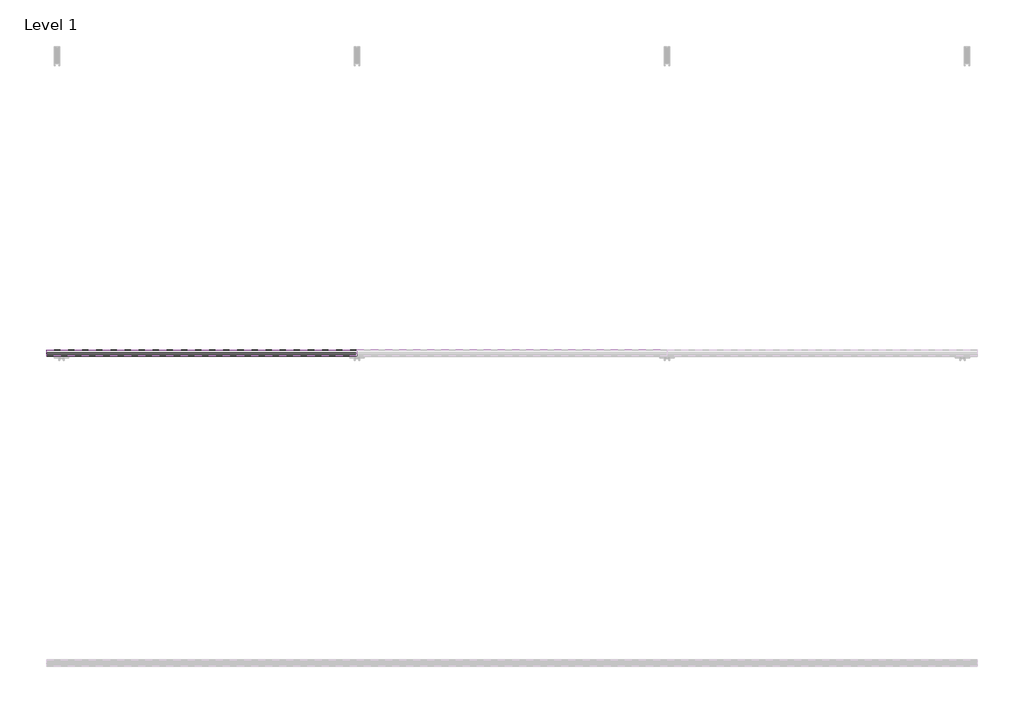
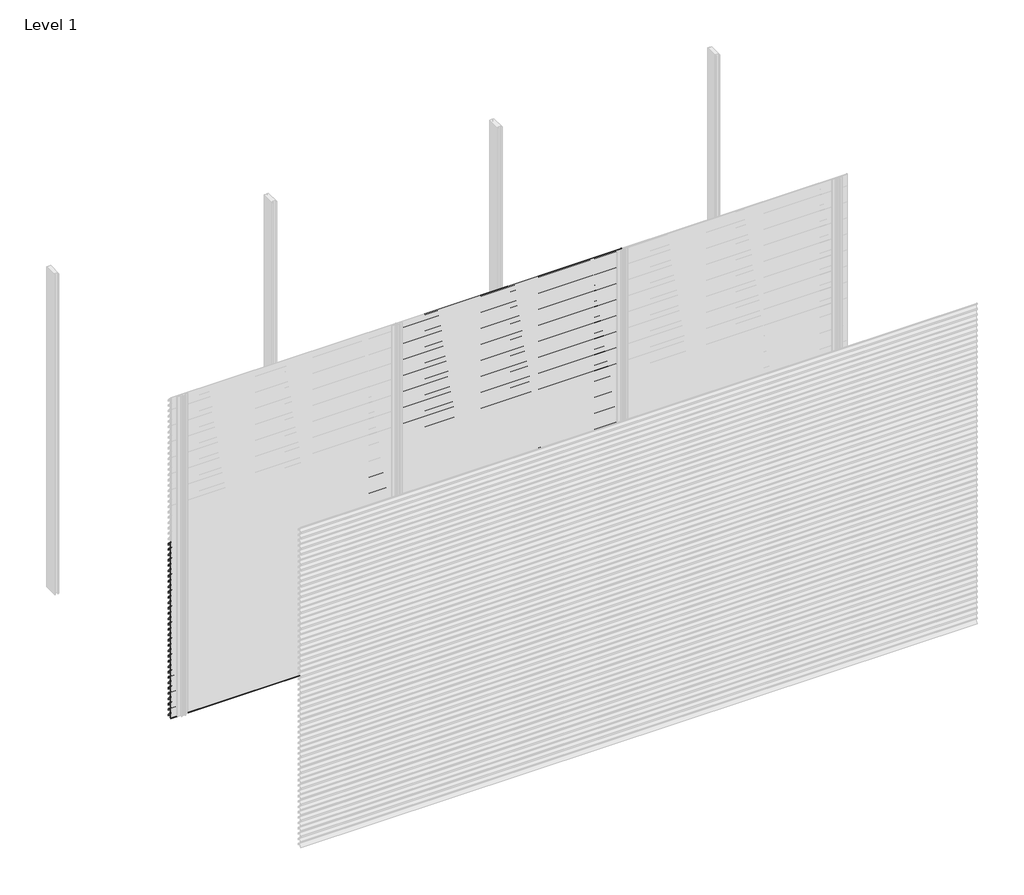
# One storey, part 4 of 38: 66 proxies.
"""IFC4 building model written with IfcOpenShell, lengths in millimetres."""

from ifc_helpers import new_model, si_unit, frame, origin, place, context, project, spatial, polyline, outline, extrude, element, save

model = new_model("IFC4")

# Units and contexts
model_context = context("Model", 3, world=origin())
ifc_project = project(units=[si_unit("LENGTHUNIT", "METRE", prefix="MILLI")], contexts=[model_context])

# Site, building, storey
site = spatial("IfcSite", under=ifc_project)
building = spatial("IfcBuilding", under=site)
storey = spatial("IfcBuildingStorey", under=building, Name="Level 1", Elevation=0.0)

# Proxies
placement = place(None, origin())
element("IfcBuildingElementProxy", 1, Name="Wall Sweeps", at=placement, inside=storey, context=model_context, shape_type="SweptSolid", body=[
    extrude(outline(polyline([(-53996.75, 1650.0), (-53996.75, 1639.19656), (-53974.6057113, 1626.4115489), (-53957.0, 1609.0472005), (-53957.0, 1594.0472005), (-53958.3, 1595.0268207), (-53958.3, 1608.5034593), (-53969.4914725, 1619.541504), (-53994.2797376, 1590.0), (-53995.9767671, 1590.0), (-53970.4200307, 1620.4573323), (-53975.3999793, 1625.3690091), (-53998.0, 1638.4171371), (-53998.0, 1650.0), (-53996.75, 1650.0)])), frame((0.0, 0.0, 0.0), z_axis=(1.0, 0.0, 0.0), x_axis=(0.0, 1.0, 0.0)), (0.0, 0.0, 1.0), 2000.0),
])
element("IfcBuildingElementProxy", 2, Name="Wall Sweeps", at=placement, inside=storey, context=model_context, shape_type="SweptSolid", body=[
    extrude(outline(polyline([(-53996.75, 1600.0), (-53996.75, 1589.19656), (-53974.6057113, 1576.4115489), (-53957.0, 1559.0472005), (-53957.0, 1544.0472005), (-53958.3, 1545.0268207), (-53958.3, 1558.5034593), (-53969.4914725, 1569.541504), (-53994.2797376, 1540.0), (-53995.9767671, 1540.0), (-53970.4200307, 1570.4573323), (-53975.3999793, 1575.3690091), (-53998.0, 1588.4171371), (-53998.0, 1600.0), (-53996.75, 1600.0)])), frame((0.0, 0.0, 0.0), z_axis=(1.0, 0.0, 0.0), x_axis=(0.0, 1.0, 0.0)), (0.0, 0.0, 1.0), 2000.0),
])
element("IfcBuildingElementProxy", 3, Name="Wall Sweeps", at=placement, inside=storey, context=model_context, shape_type="SweptSolid", body=[
    extrude(outline(polyline([(-53996.75, 1550.0), (-53996.75, 1539.19656), (-53974.6057113, 1526.4115489), (-53957.0, 1509.0472005), (-53957.0, 1494.0472005), (-53958.3, 1495.0268207), (-53958.3, 1508.5034593), (-53969.4914725, 1519.541504), (-53994.2797376, 1490.0), (-53995.9767671, 1490.0), (-53970.4200307, 1520.4573323), (-53975.3999793, 1525.3690091), (-53998.0, 1538.4171371), (-53998.0, 1550.0), (-53996.75, 1550.0)])), frame((0.0, 0.0, 0.0), z_axis=(1.0, 0.0, 0.0), x_axis=(0.0, 1.0, 0.0)), (0.0, 0.0, 1.0), 2000.0),
])
element("IfcBuildingElementProxy", 4, Name="Wall Sweeps", at=placement, inside=storey, context=model_context, shape_type="SweptSolid", body=[
    extrude(outline(polyline([(-53996.75, 1500.0), (-53996.75, 1489.19656), (-53974.6057113, 1476.4115489), (-53957.0, 1459.0472005), (-53957.0, 1444.0472005), (-53958.3, 1445.0268207), (-53958.3, 1458.5034593), (-53969.4914725, 1469.541504), (-53994.2797376, 1440.0), (-53995.9767671, 1440.0), (-53970.4200307, 1470.4573323), (-53975.3999793, 1475.3690091), (-53998.0, 1488.4171371), (-53998.0, 1500.0), (-53996.75, 1500.0)])), frame((0.0, 0.0, 0.0), z_axis=(1.0, 0.0, 0.0), x_axis=(0.0, 1.0, 0.0)), (0.0, 0.0, 1.0), 2000.0),
])
element("IfcBuildingElementProxy", 5, Name="Wall Sweeps", at=placement, inside=storey, context=model_context, shape_type="SweptSolid", body=[
    extrude(outline(polyline([(-53996.75, 1450.0), (-53996.75, 1439.19656), (-53974.6057113, 1426.4115489), (-53957.0, 1409.0472005), (-53957.0, 1394.0472005), (-53958.3, 1395.0268207), (-53958.3, 1408.5034593), (-53969.4914725, 1419.541504), (-53994.2797376, 1390.0), (-53995.9767671, 1390.0), (-53970.4200307, 1420.4573323), (-53975.3999793, 1425.3690091), (-53998.0, 1438.4171371), (-53998.0, 1450.0), (-53996.75, 1450.0)])), frame((0.0, 0.0, 0.0), z_axis=(1.0, 0.0, 0.0), x_axis=(0.0, 1.0, 0.0)), (0.0, 0.0, 1.0), 2000.0),
])
element("IfcBuildingElementProxy", 6, Name="Wall Sweeps", at=placement, inside=storey, context=model_context, shape_type="SweptSolid", body=[
    extrude(outline(polyline([(-53996.75, 1400.0), (-53996.75, 1389.19656), (-53974.6057113, 1376.4115489), (-53957.0, 1359.0472005), (-53957.0, 1344.0472005), (-53958.3, 1345.0268207), (-53958.3, 1358.5034593), (-53969.4914725, 1369.541504), (-53994.2797376, 1340.0), (-53995.9767671, 1340.0), (-53970.4200307, 1370.4573323), (-53975.3999793, 1375.3690091), (-53998.0, 1388.4171371), (-53998.0, 1400.0), (-53996.75, 1400.0)])), frame((0.0, 0.0, 0.0), z_axis=(1.0, 0.0, 0.0), x_axis=(0.0, 1.0, 0.0)), (0.0, 0.0, 1.0), 2000.0),
])
element("IfcBuildingElementProxy", 7, Name="Wall Sweeps", at=placement, inside=storey, context=model_context, shape_type="SweptSolid", body=[
    extrude(outline(polyline([(-53996.75, 1350.0), (-53996.75, 1339.19656), (-53974.6057113, 1326.4115489), (-53957.0, 1309.0472005), (-53957.0, 1294.0472005), (-53958.3, 1295.0268207), (-53958.3, 1308.5034593), (-53969.4914725, 1319.541504), (-53994.2797376, 1290.0), (-53995.9767671, 1290.0), (-53970.4200307, 1320.4573323), (-53975.3999793, 1325.3690091), (-53998.0, 1338.4171371), (-53998.0, 1350.0), (-53996.75, 1350.0)])), frame((0.0, 0.0, 0.0), z_axis=(1.0, 0.0, 0.0), x_axis=(0.0, 1.0, 0.0)), (0.0, 0.0, 1.0), 2000.0),
])
element("IfcBuildingElementProxy", 8, Name="Wall Sweeps", at=placement, inside=storey, context=model_context, shape_type="SweptSolid", body=[
    extrude(outline(polyline([(-53996.75, 1300.0), (-53996.75, 1289.19656), (-53974.6057113, 1276.4115489), (-53957.0, 1259.0472005), (-53957.0, 1244.0472005), (-53958.3, 1245.0268207), (-53958.3, 1258.5034593), (-53969.4914725, 1269.541504), (-53994.2797376, 1240.0), (-53995.9767671, 1240.0), (-53970.4200307, 1270.4573323), (-53975.3999793, 1275.3690091), (-53998.0, 1288.4171371), (-53998.0, 1300.0), (-53996.75, 1300.0)])), frame((0.0, 0.0, 0.0), z_axis=(1.0, 0.0, 0.0), x_axis=(0.0, 1.0, 0.0)), (0.0, 0.0, 1.0), 2000.0),
])
element("IfcBuildingElementProxy", 9, Name="Wall Sweeps", at=placement, inside=storey, context=model_context, shape_type="SweptSolid", body=[
    extrude(outline(polyline([(-53996.75, 1250.0), (-53996.75, 1239.19656), (-53974.6057113, 1226.4115489), (-53957.0, 1209.0472005), (-53957.0, 1194.0472005), (-53958.3, 1195.0268207), (-53958.3, 1208.5034593), (-53969.4914725, 1219.541504), (-53994.2797376, 1190.0), (-53995.9767671, 1190.0), (-53970.4200307, 1220.4573323), (-53975.3999793, 1225.3690091), (-53998.0, 1238.4171371), (-53998.0, 1250.0), (-53996.75, 1250.0)])), frame((0.0, 0.0, 0.0), z_axis=(1.0, 0.0, 0.0), x_axis=(0.0, 1.0, 0.0)), (0.0, 0.0, 1.0), 2000.0),
])
element("IfcBuildingElementProxy", 10, Name="Wall Sweeps", at=placement, inside=storey, context=model_context, shape_type="SweptSolid", body=[
    extrude(outline(polyline([(-53996.75, 1200.0), (-53996.75, 1189.19656), (-53974.6057113, 1176.4115489), (-53957.0, 1159.0472005), (-53957.0, 1144.0472005), (-53958.3, 1145.0268207), (-53958.3, 1158.5034593), (-53969.4914725, 1169.541504), (-53994.2797376, 1140.0), (-53995.9767671, 1140.0), (-53970.4200307, 1170.4573323), (-53975.3999793, 1175.3690091), (-53998.0, 1188.4171371), (-53998.0, 1200.0), (-53996.75, 1200.0)])), frame((0.0, 0.0, 0.0), z_axis=(1.0, 0.0, 0.0), x_axis=(0.0, 1.0, 0.0)), (0.0, 0.0, 1.0), 2000.0),
])
element("IfcBuildingElementProxy", 11, Name="Wall Sweeps", at=placement, inside=storey, context=model_context, shape_type="SweptSolid", body=[
    extrude(outline(polyline([(-53996.75, 1150.0), (-53996.75, 1139.19656), (-53974.6057113, 1126.4115489), (-53957.0, 1109.0472005), (-53957.0, 1094.0472005), (-53958.3, 1095.0268207), (-53958.3, 1108.5034593), (-53969.4914725, 1119.541504), (-53994.2797376, 1090.0), (-53995.9767671, 1090.0), (-53970.4200307, 1120.4573323), (-53975.3999793, 1125.3690091), (-53998.0, 1138.4171371), (-53998.0, 1150.0), (-53996.75, 1150.0)])), frame((0.0, 0.0, 0.0), z_axis=(1.0, 0.0, 0.0), x_axis=(0.0, 1.0, 0.0)), (0.0, 0.0, 1.0), 2000.0),
])
element("IfcBuildingElementProxy", 12, Name="Wall Sweeps", at=placement, inside=storey, context=model_context, shape_type="SweptSolid", body=[
    extrude(outline(polyline([(-53996.75, 1100.0), (-53996.75, 1089.19656), (-53974.6057113, 1076.4115489), (-53957.0, 1059.0472005), (-53957.0, 1044.0472005), (-53958.3, 1045.0268207), (-53958.3, 1058.5034593), (-53969.4914725, 1069.541504), (-53994.2797376, 1040.0), (-53995.9767671, 1040.0), (-53970.4200307, 1070.4573323), (-53975.3999793, 1075.3690091), (-53998.0, 1088.4171371), (-53998.0, 1100.0), (-53996.75, 1100.0)])), frame((0.0, 0.0, 0.0), z_axis=(1.0, 0.0, 0.0), x_axis=(0.0, 1.0, 0.0)), (0.0, 0.0, 1.0), 2000.0),
])
element("IfcBuildingElementProxy", 13, Name="Wall Sweeps", at=placement, inside=storey, context=model_context, shape_type="SweptSolid", body=[
    extrude(outline(polyline([(-53996.75, 1050.0), (-53996.75, 1039.19656), (-53974.6057113, 1026.4115489), (-53957.0, 1009.0472005), (-53957.0, 994.0472005), (-53958.3, 995.0268207), (-53958.3, 1008.5034593), (-53969.4914725, 1019.541504), (-53994.2797376, 990.0), (-53995.9767671, 990.0), (-53970.4200307, 1020.4573323), (-53975.3999793, 1025.3690091), (-53998.0, 1038.4171371), (-53998.0, 1050.0), (-53996.75, 1050.0)])), frame((0.0, 0.0, 0.0), z_axis=(1.0, 0.0, 0.0), x_axis=(0.0, 1.0, 0.0)), (0.0, 0.0, 1.0), 2000.0),
])
element("IfcBuildingElementProxy", 14, Name="Wall Sweeps", at=placement, inside=storey, context=model_context, shape_type="SweptSolid", body=[
    extrude(outline(polyline([(-53996.75, 1000.0), (-53996.75, 989.19656), (-53974.6057113, 976.4115489), (-53957.0, 959.0472005), (-53957.0, 944.0472005), (-53958.3, 945.0268207), (-53958.3, 958.5034593), (-53969.4914725, 969.541504), (-53994.2797376, 940.0), (-53995.9767671, 940.0), (-53970.4200307, 970.4573323), (-53975.3999793, 975.3690091), (-53998.0, 988.4171371), (-53998.0, 1000.0), (-53996.75, 1000.0)])), frame((0.0, 0.0, 0.0), z_axis=(1.0, 0.0, 0.0), x_axis=(0.0, 1.0, 0.0)), (0.0, 0.0, 1.0), 2000.0),
])
element("IfcBuildingElementProxy", 15, Name="Wall Sweeps", at=placement, inside=storey, context=model_context, shape_type="SweptSolid", body=[
    extrude(outline(polyline([(-53996.75, 950.0), (-53996.75, 939.19656), (-53974.6057113, 926.4115489), (-53957.0, 909.0472005), (-53957.0, 894.0472005), (-53958.3, 895.0268207), (-53958.3, 908.5034593), (-53969.4914725, 919.541504), (-53994.2797376, 890.0), (-53995.9767671, 890.0), (-53970.4200307, 920.4573323), (-53975.3999793, 925.3690091), (-53998.0, 938.4171371), (-53998.0, 950.0), (-53996.75, 950.0)])), frame((0.0, 0.0, 0.0), z_axis=(1.0, 0.0, 0.0), x_axis=(0.0, 1.0, 0.0)), (0.0, 0.0, 1.0), 2000.0),
])
element("IfcBuildingElementProxy", 16, Name="Wall Sweeps", at=placement, inside=storey, context=model_context, shape_type="SweptSolid", body=[
    extrude(outline(polyline([(-53996.75, 900.0), (-53996.75, 889.19656), (-53974.6057113, 876.4115489), (-53957.0, 859.0472005), (-53957.0, 844.0472005), (-53958.3, 845.0268207), (-53958.3, 858.5034593), (-53969.4914725, 869.541504), (-53994.2797376, 840.0), (-53995.9767671, 840.0), (-53970.4200307, 870.4573323), (-53975.3999793, 875.3690091), (-53998.0, 888.4171371), (-53998.0, 900.0), (-53996.75, 900.0)])), frame((0.0, 0.0, 0.0), z_axis=(1.0, 0.0, 0.0), x_axis=(0.0, 1.0, 0.0)), (0.0, 0.0, 1.0), 2000.0),
])
element("IfcBuildingElementProxy", 17, Name="Wall Sweeps", at=placement, inside=storey, context=model_context, shape_type="SweptSolid", body=[
    extrude(outline(polyline([(-53996.75, 850.0), (-53996.75, 839.19656), (-53974.6057113, 826.4115489), (-53957.0, 809.0472005), (-53957.0, 794.0472005), (-53958.3, 795.0268207), (-53958.3, 808.5034593), (-53969.4914725, 819.541504), (-53994.2797376, 790.0), (-53995.9767671, 790.0), (-53970.4200307, 820.4573323), (-53975.3999793, 825.3690091), (-53998.0, 838.4171371), (-53998.0, 850.0), (-53996.75, 850.0)])), frame((0.0, 0.0, 0.0), z_axis=(1.0, 0.0, 0.0), x_axis=(0.0, 1.0, 0.0)), (0.0, 0.0, 1.0), 2000.0),
])
element("IfcBuildingElementProxy", 18, Name="Wall Sweeps", at=placement, inside=storey, context=model_context, shape_type="SweptSolid", body=[
    extrude(outline(polyline([(-53996.75, 800.0), (-53996.75, 789.19656), (-53974.6057113, 776.4115489), (-53957.0, 759.0472005), (-53957.0, 744.0472005), (-53958.3, 745.0268207), (-53958.3, 758.5034593), (-53969.4914725, 769.541504), (-53994.2797376, 740.0), (-53995.9767671, 740.0), (-53970.4200307, 770.4573323), (-53975.3999793, 775.3690091), (-53998.0, 788.4171371), (-53998.0, 800.0), (-53996.75, 800.0)])), frame((0.0, 0.0, 0.0), z_axis=(1.0, 0.0, 0.0), x_axis=(0.0, 1.0, 0.0)), (0.0, 0.0, 1.0), 2000.0),
])
element("IfcBuildingElementProxy", 19, Name="Wall Sweeps", at=placement, inside=storey, context=model_context, shape_type="SweptSolid", body=[
    extrude(outline(polyline([(-53996.75, 750.0), (-53996.75, 739.19656), (-53974.6057113, 726.4115489), (-53957.0, 709.0472005), (-53957.0, 694.0472005), (-53958.3, 695.0268207), (-53958.3, 708.5034593), (-53969.4914725, 719.541504), (-53994.2797376, 690.0), (-53995.9767671, 690.0), (-53970.4200307, 720.4573323), (-53975.3999793, 725.3690091), (-53998.0, 738.4171371), (-53998.0, 750.0), (-53996.75, 750.0)])), frame((0.0, 0.0, 0.0), z_axis=(1.0, 0.0, 0.0), x_axis=(0.0, 1.0, 0.0)), (0.0, 0.0, 1.0), 2000.0),
])
element("IfcBuildingElementProxy", 20, Name="Wall Sweeps", at=placement, inside=storey, context=model_context, shape_type="SweptSolid", body=[
    extrude(outline(polyline([(-53996.75, 700.0), (-53996.75, 689.19656), (-53974.6057113, 676.4115489), (-53957.0, 659.0472005), (-53957.0, 644.0472005), (-53958.3, 645.0268207), (-53958.3, 658.5034593), (-53969.4914725, 669.541504), (-53994.2797376, 640.0), (-53995.9767671, 640.0), (-53970.4200307, 670.4573323), (-53975.3999793, 675.3690091), (-53998.0, 688.4171371), (-53998.0, 700.0), (-53996.75, 700.0)])), frame((0.0, 0.0, 0.0), z_axis=(1.0, 0.0, 0.0), x_axis=(0.0, 1.0, 0.0)), (0.0, 0.0, 1.0), 2000.0),
])
element("IfcBuildingElementProxy", 21, Name="Wall Sweeps", at=placement, inside=storey, context=model_context, shape_type="SweptSolid", body=[
    extrude(outline(polyline([(-53996.75, 650.0), (-53996.75, 639.19656), (-53974.6057113, 626.4115489), (-53957.0, 609.0472005), (-53957.0, 594.0472005), (-53958.3, 595.0268207), (-53958.3, 608.5034593), (-53969.4914725, 619.541504), (-53994.2797376, 590.0), (-53995.9767671, 590.0), (-53970.4200307, 620.4573323), (-53975.3999793, 625.3690091), (-53998.0, 638.4171371), (-53998.0, 650.0), (-53996.75, 650.0)])), frame((0.0, 0.0, 0.0), z_axis=(1.0, 0.0, 0.0), x_axis=(0.0, 1.0, 0.0)), (0.0, 0.0, 1.0), 2000.0),
])
element("IfcBuildingElementProxy", 22, Name="Wall Sweeps", at=placement, inside=storey, context=model_context, shape_type="SweptSolid", body=[
    extrude(outline(polyline([(-53996.75, 600.0), (-53996.75, 589.19656), (-53974.6057113, 576.4115489), (-53957.0, 559.0472005), (-53957.0, 544.0472005), (-53958.3, 545.0268207), (-53958.3, 558.5034593), (-53969.4914725, 569.541504), (-53994.2797376, 540.0), (-53995.9767671, 540.0), (-53970.4200307, 570.4573323), (-53975.3999793, 575.3690091), (-53998.0, 588.4171371), (-53998.0, 600.0), (-53996.75, 600.0)])), frame((0.0, 0.0, 0.0), z_axis=(1.0, 0.0, 0.0), x_axis=(0.0, 1.0, 0.0)), (0.0, 0.0, 1.0), 2000.0),
])
element("IfcBuildingElementProxy", 23, Name="Wall Sweeps", at=placement, inside=storey, context=model_context, shape_type="SweptSolid", body=[
    extrude(outline(polyline([(-53996.75, 550.0), (-53996.75, 539.19656), (-53974.6057113, 526.4115489), (-53957.0, 509.0472005), (-53957.0, 494.0472005), (-53958.3, 495.0268207), (-53958.3, 508.5034593), (-53969.4914725, 519.541504), (-53994.2797376, 490.0), (-53995.9767671, 490.0), (-53970.4200307, 520.4573323), (-53975.3999793, 525.3690091), (-53998.0, 538.4171371), (-53998.0, 550.0), (-53996.75, 550.0)])), frame((0.0, 0.0, 0.0), z_axis=(1.0, 0.0, 0.0), x_axis=(0.0, 1.0, 0.0)), (0.0, 0.0, 1.0), 2000.0),
])
element("IfcBuildingElementProxy", 24, Name="Wall Sweeps", at=placement, inside=storey, context=model_context, shape_type="SweptSolid", body=[
    extrude(outline(polyline([(-53996.75, 500.0), (-53996.75, 489.19656), (-53974.6057113, 476.4115489), (-53957.0, 459.0472005), (-53957.0, 444.0472005), (-53958.3, 445.0268207), (-53958.3, 458.5034593), (-53969.4914725, 469.541504), (-53994.2797376, 440.0), (-53995.9767671, 440.0), (-53970.4200307, 470.4573323), (-53975.3999793, 475.3690091), (-53998.0, 488.4171371), (-53998.0, 500.0), (-53996.75, 500.0)])), frame((0.0, 0.0, 0.0), z_axis=(1.0, 0.0, 0.0), x_axis=(0.0, 1.0, 0.0)), (0.0, 0.0, 1.0), 2000.0),
])
element("IfcBuildingElementProxy", 25, Name="Wall Sweeps", at=placement, inside=storey, context=model_context, shape_type="SweptSolid", body=[
    extrude(outline(polyline([(-53996.75, 450.0), (-53996.75, 439.19656), (-53974.6057113, 426.4115489), (-53957.0, 409.0472005), (-53957.0, 394.0472005), (-53958.3, 395.0268207), (-53958.3, 408.5034593), (-53969.4914725, 419.541504), (-53994.2797376, 390.0), (-53995.9767671, 390.0), (-53970.4200307, 420.4573323), (-53975.3999793, 425.3690091), (-53998.0, 438.4171371), (-53998.0, 450.0), (-53996.75, 450.0)])), frame((0.0, 0.0, 0.0), z_axis=(1.0, 0.0, 0.0), x_axis=(0.0, 1.0, 0.0)), (0.0, 0.0, 1.0), 2000.0),
])
element("IfcBuildingElementProxy", 26, Name="Wall Sweeps", at=placement, inside=storey, context=model_context, shape_type="SweptSolid", body=[
    extrude(outline(polyline([(-53996.75, 400.0), (-53996.75, 389.19656), (-53974.6057113, 376.4115489), (-53957.0, 359.0472005), (-53957.0, 344.0472005), (-53958.3, 345.0268207), (-53958.3, 358.5034593), (-53969.4914725, 369.541504), (-53994.2797376, 340.0), (-53995.9767671, 340.0), (-53970.4200307, 370.4573323), (-53975.3999793, 375.3690091), (-53998.0, 388.4171371), (-53998.0, 400.0), (-53996.75, 400.0)])), frame((0.0, 0.0, 0.0), z_axis=(1.0, 0.0, 0.0), x_axis=(0.0, 1.0, 0.0)), (0.0, 0.0, 1.0), 2000.0),
])
element("IfcBuildingElementProxy", 27, Name="Wall Sweeps", at=placement, inside=storey, context=model_context, shape_type="SweptSolid", body=[
    extrude(outline(polyline([(-53996.75, 350.0), (-53996.75, 339.19656), (-53974.6057113, 326.4115489), (-53957.0, 309.0472005), (-53957.0, 294.0472005), (-53958.3, 295.0268207), (-53958.3, 308.5034593), (-53969.4914725, 319.541504), (-53994.2797376, 290.0), (-53995.9767671, 290.0), (-53970.4200307, 320.4573323), (-53975.3999793, 325.3690091), (-53998.0, 338.4171371), (-53998.0, 350.0), (-53996.75, 350.0)])), frame((0.0, 0.0, 0.0), z_axis=(1.0, 0.0, 0.0), x_axis=(0.0, 1.0, 0.0)), (0.0, 0.0, 1.0), 2000.0),
])
element("IfcBuildingElementProxy", 28, Name="Wall Sweeps", at=placement, inside=storey, context=model_context, shape_type="SweptSolid", body=[
    extrude(outline(polyline([(-53996.75, 300.0), (-53996.75, 289.19656), (-53974.6057113, 276.4115489), (-53957.0, 259.0472005), (-53957.0, 244.0472005), (-53958.3, 245.0268207), (-53958.3, 258.5034593), (-53969.4914725, 269.541504), (-53994.2797376, 240.0), (-53995.9767671, 240.0), (-53970.4200307, 270.4573323), (-53975.3999793, 275.3690091), (-53998.0, 288.4171371), (-53998.0, 300.0), (-53996.75, 300.0)])), frame((0.0, 0.0, 0.0), z_axis=(1.0, 0.0, 0.0), x_axis=(0.0, 1.0, 0.0)), (0.0, 0.0, 1.0), 2000.0),
])
element("IfcBuildingElementProxy", 29, Name="Wall Sweeps", at=placement, inside=storey, context=model_context, shape_type="SweptSolid", body=[
    extrude(outline(polyline([(-53996.75, 250.0), (-53996.75, 239.19656), (-53974.6057113, 226.4115489), (-53957.0, 209.0472005), (-53957.0, 194.0472005), (-53958.3, 195.0268207), (-53958.3, 208.5034593), (-53969.4914725, 219.541504), (-53994.2797376, 190.0), (-53995.9767671, 190.0), (-53970.4200307, 220.4573323), (-53975.3999793, 225.3690091), (-53998.0, 238.4171371), (-53998.0, 250.0), (-53996.75, 250.0)])), frame((0.0, 0.0, 0.0), z_axis=(1.0, 0.0, 0.0), x_axis=(0.0, 1.0, 0.0)), (0.0, 0.0, 1.0), 2000.0),
])
element("IfcBuildingElementProxy", 30, Name="Wall Sweeps", at=placement, inside=storey, context=model_context, shape_type="SweptSolid", body=[
    extrude(outline(polyline([(-53996.75, 200.0), (-53996.75, 189.19656), (-53974.6057113, 176.4115489), (-53957.0, 159.0472005), (-53957.0, 144.0472005), (-53958.3, 145.0268207), (-53958.3, 158.5034593), (-53969.4914725, 169.541504), (-53994.2797376, 140.0), (-53995.9767671, 140.0), (-53970.4200307, 170.4573323), (-53975.3999793, 175.3690091), (-53998.0, 188.4171371), (-53998.0, 200.0), (-53996.75, 200.0)])), frame((0.0, 0.0, 0.0), z_axis=(1.0, 0.0, 0.0), x_axis=(0.0, 1.0, 0.0)), (0.0, 0.0, 1.0), 2000.0),
])
element("IfcBuildingElementProxy", 31, Name="Wall Sweeps", at=placement, inside=storey, context=model_context, shape_type="SweptSolid", body=[
    extrude(outline(polyline([(-53996.75, 150.0), (-53996.75, 139.19656), (-53974.6057113, 126.4115489), (-53957.0, 109.0472005), (-53957.0, 94.0472005), (-53958.3, 95.0268207), (-53958.3, 108.5034593), (-53969.4914725, 119.541504), (-53994.2797376, 90.0), (-53995.9767671, 90.0), (-53970.4200307, 120.4573323), (-53975.3999793, 125.3690091), (-53998.0, 138.4171371), (-53998.0, 150.0), (-53996.75, 150.0)])), frame((0.0, 0.0, 0.0), z_axis=(1.0, 0.0, 0.0), x_axis=(0.0, 1.0, 0.0)), (0.0, 0.0, 1.0), 2000.0),
])
element("IfcBuildingElementProxy", 32, Name="Wall Sweeps", at=placement, inside=storey, context=model_context, shape_type="SweptSolid", body=[
    extrude(outline(polyline([(-53996.75, 100.0), (-53996.75, 89.19656), (-53974.6057113, 76.4115489), (-53957.0, 59.0472005), (-53957.0, 44.0472005), (-53958.3, 45.0268207), (-53958.3, 58.5034593), (-53969.4914725, 69.541504), (-53994.2797376, 40.0), (-53995.9767671, 40.0), (-53970.4200307, 70.4573323), (-53975.3999793, 75.3690091), (-53998.0, 88.4171371), (-53998.0, 100.0), (-53996.75, 100.0)])), frame((0.0, 0.0, 0.0), z_axis=(1.0, 0.0, 0.0), x_axis=(0.0, 1.0, 0.0)), (0.0, 0.0, 1.0), 2000.0),
])
element("IfcBuildingElementProxy", 33, Name="Wall Sweeps", at=placement, inside=storey, context=model_context, shape_type="SweptSolid", body=[
    extrude(outline(polyline([(-53996.75, 50.0), (-53996.75, 39.19656), (-53974.6057113, 26.4115489), (-53957.0, 9.0472005), (-53957.0, -5.9527995), (-53958.3, -4.9731793), (-53958.3, 8.5034593), (-53969.4914725, 19.541504), (-53994.2797376, -10.0), (-53995.9767671, -10.0), (-53970.4200307, 20.4573323), (-53975.3999793, 25.3690091), (-53998.0, 38.4171371), (-53998.0, 50.0), (-53996.75, 50.0)])), frame((0.0, 0.0, 0.0), z_axis=(1.0, 0.0, 0.0), x_axis=(0.0, 1.0, 0.0)), (0.0, 0.0, 1.0), 2000.0),
])
element("IfcBuildingElementProxy", 34, Name="Wall Sweeps", at=placement, inside=storey, context=model_context, shape_type="SweptSolid", body=[
    extrude(outline(polyline([(-53996.75, 3000.0), (-53996.75, 2989.19656), (-53974.6057113, 2976.4115489), (-53957.0, 2959.0472005), (-53957.0, 2944.0472005), (-53958.3, 2945.0268207), (-53958.3, 2958.5034593), (-53969.4914725, 2969.541504), (-53994.2797376, 2940.0), (-53995.9767671, 2940.0), (-53970.4200307, 2970.4573323), (-53975.3999793, 2975.3690091), (-53998.0, 2988.4171371), (-53998.0, 3000.0), (-53996.75, 3000.0)])), frame((2000.0, 0.0, 0.0), z_axis=(1.0, 0.0, 0.0), x_axis=(0.0, 1.0, 0.0)), (0.0, 0.0, 1.0), 2000.0),
])
element("IfcBuildingElementProxy", 35, Name="Wall Sweeps", at=placement, inside=storey, context=model_context, shape_type="SweptSolid", body=[
    extrude(outline(polyline([(-53996.75, 2950.0), (-53996.75, 2939.19656), (-53974.6057113, 2926.4115489), (-53957.0, 2909.0472005), (-53957.0, 2894.0472005), (-53958.3, 2895.0268207), (-53958.3, 2908.5034593), (-53969.4914725, 2919.541504), (-53994.2797376, 2890.0), (-53995.9767671, 2890.0), (-53970.4200307, 2920.4573323), (-53975.3999793, 2925.3690091), (-53998.0, 2938.4171371), (-53998.0, 2950.0), (-53996.75, 2950.0)])), frame((2000.0, 0.0, 0.0), z_axis=(1.0, 0.0, 0.0), x_axis=(0.0, 1.0, 0.0)), (0.0, 0.0, 1.0), 2000.0),
])
element("IfcBuildingElementProxy", 36, Name="Wall Sweeps", at=placement, inside=storey, context=model_context, shape_type="SweptSolid", body=[
    extrude(outline(polyline([(-53996.75, 2900.0), (-53996.75, 2889.19656), (-53974.6057113, 2876.4115489), (-53957.0, 2859.0472005), (-53957.0, 2844.0472005), (-53958.3, 2845.0268207), (-53958.3, 2858.5034593), (-53969.4914725, 2869.541504), (-53994.2797376, 2840.0), (-53995.9767671, 2840.0), (-53970.4200307, 2870.4573323), (-53975.3999793, 2875.3690091), (-53998.0, 2888.4171371), (-53998.0, 2900.0), (-53996.75, 2900.0)])), frame((2000.0, 0.0, 0.0), z_axis=(1.0, 0.0, 0.0), x_axis=(0.0, 1.0, 0.0)), (0.0, 0.0, 1.0), 2000.0),
])
element("IfcBuildingElementProxy", 37, Name="Wall Sweeps", at=placement, inside=storey, context=model_context, shape_type="SweptSolid", body=[
    extrude(outline(polyline([(-53996.75, 2850.0), (-53996.75, 2839.19656), (-53974.6057113, 2826.4115489), (-53957.0, 2809.0472005), (-53957.0, 2794.0472005), (-53958.3, 2795.0268207), (-53958.3, 2808.5034593), (-53969.4914725, 2819.541504), (-53994.2797376, 2790.0), (-53995.9767671, 2790.0), (-53970.4200307, 2820.4573323), (-53975.3999793, 2825.3690091), (-53998.0, 2838.4171371), (-53998.0, 2850.0), (-53996.75, 2850.0)])), frame((2000.0, 0.0, 0.0), z_axis=(1.0, 0.0, 0.0), x_axis=(0.0, 1.0, 0.0)), (0.0, 0.0, 1.0), 2000.0),
])
element("IfcBuildingElementProxy", 38, Name="Wall Sweeps", at=placement, inside=storey, context=model_context, shape_type="SweptSolid", body=[
    extrude(outline(polyline([(-53996.75, 2800.0), (-53996.75, 2789.19656), (-53974.6057113, 2776.4115489), (-53957.0, 2759.0472005), (-53957.0, 2744.0472005), (-53958.3, 2745.0268207), (-53958.3, 2758.5034593), (-53969.4914725, 2769.541504), (-53994.2797376, 2740.0), (-53995.9767671, 2740.0), (-53970.4200307, 2770.4573323), (-53975.3999793, 2775.3690091), (-53998.0, 2788.4171371), (-53998.0, 2800.0), (-53996.75, 2800.0)])), frame((2000.0, 0.0, 0.0), z_axis=(1.0, 0.0, 0.0), x_axis=(0.0, 1.0, 0.0)), (0.0, 0.0, 1.0), 2000.0),
])
element("IfcBuildingElementProxy", 39, Name="Wall Sweeps", at=placement, inside=storey, context=model_context, shape_type="SweptSolid", body=[
    extrude(outline(polyline([(-53996.75, 2750.0), (-53996.75, 2739.19656), (-53974.6057113, 2726.4115489), (-53957.0, 2709.0472005), (-53957.0, 2694.0472005), (-53958.3, 2695.0268207), (-53958.3, 2708.5034593), (-53969.4914725, 2719.541504), (-53994.2797376, 2690.0), (-53995.9767671, 2690.0), (-53970.4200307, 2720.4573323), (-53975.3999793, 2725.3690091), (-53998.0, 2738.4171371), (-53998.0, 2750.0), (-53996.75, 2750.0)])), frame((2000.0, 0.0, 0.0), z_axis=(1.0, 0.0, 0.0), x_axis=(0.0, 1.0, 0.0)), (0.0, 0.0, 1.0), 2000.0),
])
element("IfcBuildingElementProxy", 40, Name="Wall Sweeps", at=placement, inside=storey, context=model_context, shape_type="SweptSolid", body=[
    extrude(outline(polyline([(-53996.75, 2700.0), (-53996.75, 2689.19656), (-53974.6057113, 2676.4115489), (-53957.0, 2659.0472005), (-53957.0, 2644.0472005), (-53958.3, 2645.0268207), (-53958.3, 2658.5034593), (-53969.4914725, 2669.541504), (-53994.2797376, 2640.0), (-53995.9767671, 2640.0), (-53970.4200307, 2670.4573323), (-53975.3999793, 2675.3690091), (-53998.0, 2688.4171371), (-53998.0, 2700.0), (-53996.75, 2700.0)])), frame((2000.0, 0.0, 0.0), z_axis=(1.0, 0.0, 0.0), x_axis=(0.0, 1.0, 0.0)), (0.0, 0.0, 1.0), 2000.0),
])
element("IfcBuildingElementProxy", 41, Name="Wall Sweeps", at=placement, inside=storey, context=model_context, shape_type="SweptSolid", body=[
    extrude(outline(polyline([(-53996.75, 2650.0), (-53996.75, 2639.19656), (-53974.6057113, 2626.4115489), (-53957.0, 2609.0472005), (-53957.0, 2594.0472005), (-53958.3, 2595.0268207), (-53958.3, 2608.5034593), (-53969.4914725, 2619.541504), (-53994.2797376, 2590.0), (-53995.9767671, 2590.0), (-53970.4200307, 2620.4573323), (-53975.3999793, 2625.3690091), (-53998.0, 2638.4171371), (-53998.0, 2650.0), (-53996.75, 2650.0)])), frame((2000.0, 0.0, 0.0), z_axis=(1.0, 0.0, 0.0), x_axis=(0.0, 1.0, 0.0)), (0.0, 0.0, 1.0), 2000.0),
])
element("IfcBuildingElementProxy", 42, Name="Wall Sweeps", at=placement, inside=storey, context=model_context, shape_type="SweptSolid", body=[
    extrude(outline(polyline([(-53996.75, 2600.0), (-53996.75, 2589.19656), (-53974.6057113, 2576.4115489), (-53957.0, 2559.0472005), (-53957.0, 2544.0472005), (-53958.3, 2545.0268207), (-53958.3, 2558.5034593), (-53969.4914725, 2569.541504), (-53994.2797376, 2540.0), (-53995.9767671, 2540.0), (-53970.4200307, 2570.4573323), (-53975.3999793, 2575.3690091), (-53998.0, 2588.4171371), (-53998.0, 2600.0), (-53996.75, 2600.0)])), frame((2000.0, 0.0, 0.0), z_axis=(1.0, 0.0, 0.0), x_axis=(0.0, 1.0, 0.0)), (0.0, 0.0, 1.0), 2000.0),
])
element("IfcBuildingElementProxy", 43, Name="Wall Sweeps", at=placement, inside=storey, context=model_context, shape_type="SweptSolid", body=[
    extrude(outline(polyline([(-53996.75, 2550.0), (-53996.75, 2539.19656), (-53974.6057113, 2526.4115489), (-53957.0, 2509.0472005), (-53957.0, 2494.0472005), (-53958.3, 2495.0268207), (-53958.3, 2508.5034593), (-53969.4914725, 2519.541504), (-53994.2797376, 2490.0), (-53995.9767671, 2490.0), (-53970.4200307, 2520.4573323), (-53975.3999793, 2525.3690091), (-53998.0, 2538.4171371), (-53998.0, 2550.0), (-53996.75, 2550.0)])), frame((2000.0, 0.0, 0.0), z_axis=(1.0, 0.0, 0.0), x_axis=(0.0, 1.0, 0.0)), (0.0, 0.0, 1.0), 2000.0),
])
element("IfcBuildingElementProxy", 44, Name="Wall Sweeps", at=placement, inside=storey, context=model_context, shape_type="SweptSolid", body=[
    extrude(outline(polyline([(-53996.75, 2500.0), (-53996.75, 2489.19656), (-53974.6057113, 2476.4115489), (-53957.0, 2459.0472005), (-53957.0, 2444.0472005), (-53958.3, 2445.0268207), (-53958.3, 2458.5034593), (-53969.4914725, 2469.541504), (-53994.2797376, 2440.0), (-53995.9767671, 2440.0), (-53970.4200307, 2470.4573323), (-53975.3999793, 2475.3690091), (-53998.0, 2488.4171371), (-53998.0, 2500.0), (-53996.75, 2500.0)])), frame((2000.0, 0.0, 0.0), z_axis=(1.0, 0.0, 0.0), x_axis=(0.0, 1.0, 0.0)), (0.0, 0.0, 1.0), 2000.0),
])
element("IfcBuildingElementProxy", 45, Name="Wall Sweeps", at=placement, inside=storey, context=model_context, shape_type="SweptSolid", body=[
    extrude(outline(polyline([(-53996.75, 2450.0), (-53996.75, 2439.19656), (-53974.6057113, 2426.4115489), (-53957.0, 2409.0472005), (-53957.0, 2394.0472005), (-53958.3, 2395.0268207), (-53958.3, 2408.5034593), (-53969.4914725, 2419.541504), (-53994.2797376, 2390.0), (-53995.9767671, 2390.0), (-53970.4200307, 2420.4573323), (-53975.3999793, 2425.3690091), (-53998.0, 2438.4171371), (-53998.0, 2450.0), (-53996.75, 2450.0)])), frame((2000.0, 0.0, 0.0), z_axis=(1.0, 0.0, 0.0), x_axis=(0.0, 1.0, 0.0)), (0.0, 0.0, 1.0), 2000.0),
])
element("IfcBuildingElementProxy", 46, Name="Wall Sweeps", at=placement, inside=storey, context=model_context, shape_type="SweptSolid", body=[
    extrude(outline(polyline([(-53996.75, 2400.0), (-53996.75, 2389.19656), (-53974.6057113, 2376.4115489), (-53957.0, 2359.0472005), (-53957.0, 2344.0472005), (-53958.3, 2345.0268207), (-53958.3, 2358.5034593), (-53969.4914725, 2369.541504), (-53994.2797376, 2340.0), (-53995.9767671, 2340.0), (-53970.4200307, 2370.4573323), (-53975.3999793, 2375.3690091), (-53998.0, 2388.4171371), (-53998.0, 2400.0), (-53996.75, 2400.0)])), frame((2000.0, 0.0, 0.0), z_axis=(1.0, 0.0, 0.0), x_axis=(0.0, 1.0, 0.0)), (0.0, 0.0, 1.0), 2000.0),
])
element("IfcBuildingElementProxy", 47, Name="Wall Sweeps", at=placement, inside=storey, context=model_context, shape_type="SweptSolid", body=[
    extrude(outline(polyline([(-53996.75, 2350.0), (-53996.75, 2339.19656), (-53974.6057113, 2326.4115489), (-53957.0, 2309.0472005), (-53957.0, 2294.0472005), (-53958.3, 2295.0268207), (-53958.3, 2308.5034593), (-53969.4914725, 2319.541504), (-53994.2797376, 2290.0), (-53995.9767671, 2290.0), (-53970.4200307, 2320.4573323), (-53975.3999793, 2325.3690091), (-53998.0, 2338.4171371), (-53998.0, 2350.0), (-53996.75, 2350.0)])), frame((2000.0, 0.0, 0.0), z_axis=(1.0, 0.0, 0.0), x_axis=(0.0, 1.0, 0.0)), (0.0, 0.0, 1.0), 2000.0),
])
element("IfcBuildingElementProxy", 48, Name="Wall Sweeps", at=placement, inside=storey, context=model_context, shape_type="SweptSolid", body=[
    extrude(outline(polyline([(-53996.75, 2300.0), (-53996.75, 2289.19656), (-53974.6057113, 2276.4115489), (-53957.0, 2259.0472005), (-53957.0, 2244.0472005), (-53958.3, 2245.0268207), (-53958.3, 2258.5034593), (-53969.4914725, 2269.541504), (-53994.2797376, 2240.0), (-53995.9767671, 2240.0), (-53970.4200307, 2270.4573323), (-53975.3999793, 2275.3690091), (-53998.0, 2288.4171371), (-53998.0, 2300.0), (-53996.75, 2300.0)])), frame((2000.0, 0.0, 0.0), z_axis=(1.0, 0.0, 0.0), x_axis=(0.0, 1.0, 0.0)), (0.0, 0.0, 1.0), 2000.0),
])
element("IfcBuildingElementProxy", 49, Name="Wall Sweeps", at=placement, inside=storey, context=model_context, shape_type="SweptSolid", body=[
    extrude(outline(polyline([(-53996.75, 2250.0), (-53996.75, 2239.19656), (-53974.6057113, 2226.4115489), (-53957.0, 2209.0472005), (-53957.0, 2194.0472005), (-53958.3, 2195.0268207), (-53958.3, 2208.5034593), (-53969.4914725, 2219.541504), (-53994.2797376, 2190.0), (-53995.9767671, 2190.0), (-53970.4200307, 2220.4573323), (-53975.3999793, 2225.3690091), (-53998.0, 2238.4171371), (-53998.0, 2250.0), (-53996.75, 2250.0)])), frame((2000.0, 0.0, 0.0), z_axis=(1.0, 0.0, 0.0), x_axis=(0.0, 1.0, 0.0)), (0.0, 0.0, 1.0), 2000.0),
])
element("IfcBuildingElementProxy", 50, Name="Wall Sweeps", at=placement, inside=storey, context=model_context, shape_type="SweptSolid", body=[
    extrude(outline(polyline([(-53996.75, 2200.0), (-53996.75, 2189.19656), (-53974.6057113, 2176.4115489), (-53957.0, 2159.0472005), (-53957.0, 2144.0472005), (-53958.3, 2145.0268207), (-53958.3, 2158.5034593), (-53969.4914725, 2169.541504), (-53994.2797376, 2140.0), (-53995.9767671, 2140.0), (-53970.4200307, 2170.4573323), (-53975.3999793, 2175.3690091), (-53998.0, 2188.4171371), (-53998.0, 2200.0), (-53996.75, 2200.0)])), frame((2000.0, 0.0, 0.0), z_axis=(1.0, 0.0, 0.0), x_axis=(0.0, 1.0, 0.0)), (0.0, 0.0, 1.0), 2000.0),
])
element("IfcBuildingElementProxy", 51, Name="Wall Sweeps", at=placement, inside=storey, context=model_context, shape_type="SweptSolid", body=[
    extrude(outline(polyline([(-53996.75, 2150.0), (-53996.75, 2139.19656), (-53974.6057113, 2126.4115489), (-53957.0, 2109.0472005), (-53957.0, 2094.0472005), (-53958.3, 2095.0268207), (-53958.3, 2108.5034593), (-53969.4914725, 2119.541504), (-53994.2797376, 2090.0), (-53995.9767671, 2090.0), (-53970.4200307, 2120.4573323), (-53975.3999793, 2125.3690091), (-53998.0, 2138.4171371), (-53998.0, 2150.0), (-53996.75, 2150.0)])), frame((2000.0, 0.0, 0.0), z_axis=(1.0, 0.0, 0.0), x_axis=(0.0, 1.0, 0.0)), (0.0, 0.0, 1.0), 2000.0),
])
element("IfcBuildingElementProxy", 52, Name="Wall Sweeps", at=placement, inside=storey, context=model_context, shape_type="SweptSolid", body=[
    extrude(outline(polyline([(-53996.75, 2100.0), (-53996.75, 2089.19656), (-53974.6057113, 2076.4115489), (-53957.0, 2059.0472005), (-53957.0, 2044.0472005), (-53958.3, 2045.0268207), (-53958.3, 2058.5034593), (-53969.4914725, 2069.541504), (-53994.2797376, 2040.0), (-53995.9767671, 2040.0), (-53970.4200307, 2070.4573323), (-53975.3999793, 2075.3690091), (-53998.0, 2088.4171371), (-53998.0, 2100.0), (-53996.75, 2100.0)])), frame((2000.0, 0.0, 0.0), z_axis=(1.0, 0.0, 0.0), x_axis=(0.0, 1.0, 0.0)), (0.0, 0.0, 1.0), 2000.0),
])
element("IfcBuildingElementProxy", 53, Name="Wall Sweeps", at=placement, inside=storey, context=model_context, shape_type="SweptSolid", body=[
    extrude(outline(polyline([(-53996.75, 2050.0), (-53996.75, 2039.19656), (-53974.6057113, 2026.4115489), (-53957.0, 2009.0472005), (-53957.0, 1994.0472005), (-53958.3, 1995.0268207), (-53958.3, 2008.5034593), (-53969.4914725, 2019.541504), (-53994.2797376, 1990.0), (-53995.9767671, 1990.0), (-53970.4200307, 2020.4573323), (-53975.3999793, 2025.3690091), (-53998.0, 2038.4171371), (-53998.0, 2050.0), (-53996.75, 2050.0)])), frame((2000.0, 0.0, 0.0), z_axis=(1.0, 0.0, 0.0), x_axis=(0.0, 1.0, 0.0)), (0.0, 0.0, 1.0), 2000.0),
])
element("IfcBuildingElementProxy", 54, Name="Wall Sweeps", at=placement, inside=storey, context=model_context, shape_type="SweptSolid", body=[
    extrude(outline(polyline([(-53996.75, 2000.0), (-53996.75, 1989.19656), (-53974.6057113, 1976.4115489), (-53957.0, 1959.0472005), (-53957.0, 1944.0472005), (-53958.3, 1945.0268207), (-53958.3, 1958.5034593), (-53969.4914725, 1969.541504), (-53994.2797376, 1940.0), (-53995.9767671, 1940.0), (-53970.4200307, 1970.4573323), (-53975.3999793, 1975.3690091), (-53998.0, 1988.4171371), (-53998.0, 2000.0), (-53996.75, 2000.0)])), frame((2000.0, 0.0, 0.0), z_axis=(1.0, 0.0, 0.0), x_axis=(0.0, 1.0, 0.0)), (0.0, 0.0, 1.0), 2000.0),
])
element("IfcBuildingElementProxy", 55, Name="Wall Sweeps", at=placement, inside=storey, context=model_context, shape_type="SweptSolid", body=[
    extrude(outline(polyline([(-53996.75, 1950.0), (-53996.75, 1939.19656), (-53974.6057113, 1926.4115489), (-53957.0, 1909.0472005), (-53957.0, 1894.0472005), (-53958.3, 1895.0268207), (-53958.3, 1908.5034593), (-53969.4914725, 1919.541504), (-53994.2797376, 1890.0), (-53995.9767671, 1890.0), (-53970.4200307, 1920.4573323), (-53975.3999793, 1925.3690091), (-53998.0, 1938.4171371), (-53998.0, 1950.0), (-53996.75, 1950.0)])), frame((2000.0, 0.0, 0.0), z_axis=(1.0, 0.0, 0.0), x_axis=(0.0, 1.0, 0.0)), (0.0, 0.0, 1.0), 2000.0),
])
element("IfcBuildingElementProxy", 56, Name="Wall Sweeps", at=placement, inside=storey, context=model_context, shape_type="SweptSolid", body=[
    extrude(outline(polyline([(-53996.75, 1900.0), (-53996.75, 1889.19656), (-53974.6057113, 1876.4115489), (-53957.0, 1859.0472005), (-53957.0, 1844.0472005), (-53958.3, 1845.0268207), (-53958.3, 1858.5034593), (-53969.4914725, 1869.541504), (-53994.2797376, 1840.0), (-53995.9767671, 1840.0), (-53970.4200307, 1870.4573323), (-53975.3999793, 1875.3690091), (-53998.0, 1888.4171371), (-53998.0, 1900.0), (-53996.75, 1900.0)])), frame((2000.0, 0.0, 0.0), z_axis=(1.0, 0.0, 0.0), x_axis=(0.0, 1.0, 0.0)), (0.0, 0.0, 1.0), 2000.0),
])
element("IfcBuildingElementProxy", 57, Name="Wall Sweeps", at=placement, inside=storey, context=model_context, shape_type="SweptSolid", body=[
    extrude(outline(polyline([(-53996.75, 1850.0), (-53996.75, 1839.19656), (-53974.6057113, 1826.4115489), (-53957.0, 1809.0472005), (-53957.0, 1794.0472005), (-53958.3, 1795.0268207), (-53958.3, 1808.5034593), (-53969.4914725, 1819.541504), (-53994.2797376, 1790.0), (-53995.9767671, 1790.0), (-53970.4200307, 1820.4573323), (-53975.3999793, 1825.3690091), (-53998.0, 1838.4171371), (-53998.0, 1850.0), (-53996.75, 1850.0)])), frame((2000.0, 0.0, 0.0), z_axis=(1.0, 0.0, 0.0), x_axis=(0.0, 1.0, 0.0)), (0.0, 0.0, 1.0), 2000.0),
])
element("IfcBuildingElementProxy", 58, Name="Wall Sweeps", at=placement, inside=storey, context=model_context, shape_type="SweptSolid", body=[
    extrude(outline(polyline([(-53996.75, 1800.0), (-53996.75, 1789.19656), (-53974.6057113, 1776.4115489), (-53957.0, 1759.0472005), (-53957.0, 1744.0472005), (-53958.3, 1745.0268207), (-53958.3, 1758.5034593), (-53969.4914725, 1769.541504), (-53994.2797376, 1740.0), (-53995.9767671, 1740.0), (-53970.4200307, 1770.4573323), (-53975.3999793, 1775.3690091), (-53998.0, 1788.4171371), (-53998.0, 1800.0), (-53996.75, 1800.0)])), frame((2000.0, 0.0, 0.0), z_axis=(1.0, 0.0, 0.0), x_axis=(0.0, 1.0, 0.0)), (0.0, 0.0, 1.0), 2000.0),
])
element("IfcBuildingElementProxy", 59, Name="Wall Sweeps", at=placement, inside=storey, context=model_context, shape_type="SweptSolid", body=[
    extrude(outline(polyline([(-53996.75, 1750.0), (-53996.75, 1739.19656), (-53974.6057113, 1726.4115489), (-53957.0, 1709.0472005), (-53957.0, 1694.0472005), (-53958.3, 1695.0268207), (-53958.3, 1708.5034593), (-53969.4914725, 1719.541504), (-53994.2797376, 1690.0), (-53995.9767671, 1690.0), (-53970.4200307, 1720.4573323), (-53975.3999793, 1725.3690091), (-53998.0, 1738.4171371), (-53998.0, 1750.0), (-53996.75, 1750.0)])), frame((2000.0, 0.0, 0.0), z_axis=(1.0, 0.0, 0.0), x_axis=(0.0, 1.0, 0.0)), (0.0, 0.0, 1.0), 2000.0),
])
element("IfcBuildingElementProxy", 60, Name="Wall Sweeps", at=placement, inside=storey, context=model_context, shape_type="SweptSolid", body=[
    extrude(outline(polyline([(-53996.75, 1700.0), (-53996.75, 1689.19656), (-53974.6057113, 1676.4115489), (-53957.0, 1659.0472005), (-53957.0, 1644.0472005), (-53958.3, 1645.0268207), (-53958.3, 1658.5034593), (-53969.4914725, 1669.541504), (-53994.2797376, 1640.0), (-53995.9767671, 1640.0), (-53970.4200307, 1670.4573323), (-53975.3999793, 1675.3690091), (-53998.0, 1688.4171371), (-53998.0, 1700.0), (-53996.75, 1700.0)])), frame((2000.0, 0.0, 0.0), z_axis=(1.0, 0.0, 0.0), x_axis=(0.0, 1.0, 0.0)), (0.0, 0.0, 1.0), 2000.0),
])
element("IfcBuildingElementProxy", 61, Name="Wall Sweeps", at=placement, inside=storey, context=model_context, shape_type="SweptSolid", body=[
    extrude(outline(polyline([(-53996.75, 1650.0), (-53996.75, 1639.19656), (-53974.6057113, 1626.4115489), (-53957.0, 1609.0472005), (-53957.0, 1594.0472005), (-53958.3, 1595.0268207), (-53958.3, 1608.5034593), (-53969.4914725, 1619.541504), (-53994.2797376, 1590.0), (-53995.9767671, 1590.0), (-53970.4200307, 1620.4573323), (-53975.3999793, 1625.3690091), (-53998.0, 1638.4171371), (-53998.0, 1650.0), (-53996.75, 1650.0)])), frame((2000.0, 0.0, 0.0), z_axis=(1.0, 0.0, 0.0), x_axis=(0.0, 1.0, 0.0)), (0.0, 0.0, 1.0), 2000.0),
])
element("IfcBuildingElementProxy", 62, Name="Wall Sweeps", at=placement, inside=storey, context=model_context, shape_type="SweptSolid", body=[
    extrude(outline(polyline([(-53996.75, 1600.0), (-53996.75, 1589.19656), (-53974.6057113, 1576.4115489), (-53957.0, 1559.0472005), (-53957.0, 1544.0472005), (-53958.3, 1545.0268207), (-53958.3, 1558.5034593), (-53969.4914725, 1569.541504), (-53994.2797376, 1540.0), (-53995.9767671, 1540.0), (-53970.4200307, 1570.4573323), (-53975.3999793, 1575.3690091), (-53998.0, 1588.4171371), (-53998.0, 1600.0), (-53996.75, 1600.0)])), frame((2000.0, 0.0, 0.0), z_axis=(1.0, 0.0, 0.0), x_axis=(0.0, 1.0, 0.0)), (0.0, 0.0, 1.0), 2000.0),
])
element("IfcBuildingElementProxy", 63, Name="Wall Sweeps", at=placement, inside=storey, context=model_context, shape_type="SweptSolid", body=[
    extrude(outline(polyline([(-53996.75, 1550.0), (-53996.75, 1539.19656), (-53974.6057113, 1526.4115489), (-53957.0, 1509.0472005), (-53957.0, 1494.0472005), (-53958.3, 1495.0268207), (-53958.3, 1508.5034593), (-53969.4914725, 1519.541504), (-53994.2797376, 1490.0), (-53995.9767671, 1490.0), (-53970.4200307, 1520.4573323), (-53975.3999793, 1525.3690091), (-53998.0, 1538.4171371), (-53998.0, 1550.0), (-53996.75, 1550.0)])), frame((2000.0, 0.0, 0.0), z_axis=(1.0, 0.0, 0.0), x_axis=(0.0, 1.0, 0.0)), (0.0, 0.0, 1.0), 2000.0),
])
element("IfcBuildingElementProxy", 64, Name="Wall Sweeps", at=placement, inside=storey, context=model_context, shape_type="SweptSolid", body=[
    extrude(outline(polyline([(-53996.75, 1500.0), (-53996.75, 1489.19656), (-53974.6057113, 1476.4115489), (-53957.0, 1459.0472005), (-53957.0, 1444.0472005), (-53958.3, 1445.0268207), (-53958.3, 1458.5034593), (-53969.4914725, 1469.541504), (-53994.2797376, 1440.0), (-53995.9767671, 1440.0), (-53970.4200307, 1470.4573323), (-53975.3999793, 1475.3690091), (-53998.0, 1488.4171371), (-53998.0, 1500.0), (-53996.75, 1500.0)])), frame((2000.0, 0.0, 0.0), z_axis=(1.0, 0.0, 0.0), x_axis=(0.0, 1.0, 0.0)), (0.0, 0.0, 1.0), 2000.0),
])
element("IfcBuildingElementProxy", 65, Name="Wall Sweeps", at=placement, inside=storey, context=model_context, shape_type="SweptSolid", body=[
    extrude(outline(polyline([(-53996.75, 1450.0), (-53996.75, 1439.19656), (-53974.6057113, 1426.4115489), (-53957.0, 1409.0472005), (-53957.0, 1394.0472005), (-53958.3, 1395.0268207), (-53958.3, 1408.5034593), (-53969.4914725, 1419.541504), (-53994.2797376, 1390.0), (-53995.9767671, 1390.0), (-53970.4200307, 1420.4573323), (-53975.3999793, 1425.3690091), (-53998.0, 1438.4171371), (-53998.0, 1450.0), (-53996.75, 1450.0)])), frame((2000.0, 0.0, 0.0), z_axis=(1.0, 0.0, 0.0), x_axis=(0.0, 1.0, 0.0)), (0.0, 0.0, 1.0), 2000.0),
])
element("IfcBuildingElementProxy", 66, Name="Wall Sweeps", at=placement, inside=storey, context=model_context, shape_type="SweptSolid", body=[
    extrude(outline(polyline([(-53996.75, 1400.0), (-53996.75, 1389.19656), (-53974.6057113, 1376.4115489), (-53957.0, 1359.0472005), (-53957.0, 1344.0472005), (-53958.3, 1345.0268207), (-53958.3, 1358.5034593), (-53969.4914725, 1369.541504), (-53994.2797376, 1340.0), (-53995.9767671, 1340.0), (-53970.4200307, 1370.4573323), (-53975.3999793, 1375.3690091), (-53998.0, 1388.4171371), (-53998.0, 1400.0), (-53996.75, 1400.0)])), frame((2000.0, 0.0, 0.0), z_axis=(1.0, 0.0, 0.0), x_axis=(0.0, 1.0, 0.0)), (0.0, 0.0, 1.0), 2000.0),
])

save(model, "model.ifc")
